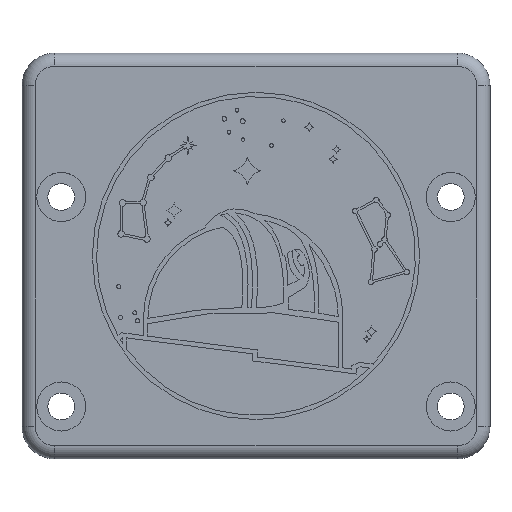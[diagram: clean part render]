
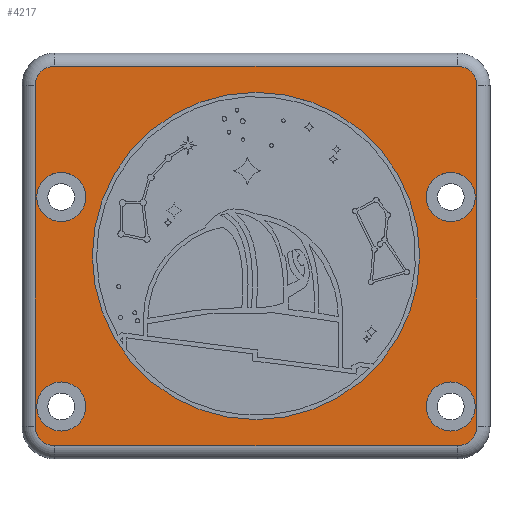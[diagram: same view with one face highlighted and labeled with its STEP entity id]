
A CAD part, top view. The second image highlights one B-rep face of the part: STEP entity #4217.
In plain terms, the highlighted planar face has unit normal (0, 0, 1).
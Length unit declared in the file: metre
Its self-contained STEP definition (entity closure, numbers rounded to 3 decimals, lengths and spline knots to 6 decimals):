
#194=LINE('',#6218,#556);
#195=LINE('',#6223,#557);
#196=LINE('',#6227,#558);
#197=LINE('',#6231,#559);
#556=VECTOR('',#4954,1.);
#557=VECTOR('',#4957,1.);
#558=VECTOR('',#4960,1.);
#559=VECTOR('',#4963,1.);
#918=ORIENTED_EDGE('',*,*,#2170,.F.);
#919=ORIENTED_EDGE('',*,*,#2171,.T.);
#920=ORIENTED_EDGE('',*,*,#2172,.T.);
#921=ORIENTED_EDGE('',*,*,#2173,.T.);
#922=ORIENTED_EDGE('',*,*,#2174,.T.);
#923=ORIENTED_EDGE('',*,*,#2175,.T.);
#924=ORIENTED_EDGE('',*,*,#2176,.T.);
#925=ORIENTED_EDGE('',*,*,#2177,.T.);
#926=ORIENTED_EDGE('',*,*,#2178,.T.);
#927=ORIENTED_EDGE('',*,*,#2179,.T.);
#928=ORIENTED_EDGE('',*,*,#2180,.T.);
#929=ORIENTED_EDGE('',*,*,#2181,.T.);
#930=ORIENTED_EDGE('',*,*,#2182,.T.);
#2170=EDGE_CURVE('',#2796,#2796,#3224,.T.);
#2171=EDGE_CURVE('',#2797,#2797,#3225,.T.);
#2172=EDGE_CURVE('',#2798,#2798,#3226,.T.);
#2173=EDGE_CURVE('',#2799,#2799,#3227,.T.);
#2174=EDGE_CURVE('',#2800,#2800,#3228,.T.);
#2175=EDGE_CURVE('',#2801,#2802,#194,.F.);
#2176=EDGE_CURVE('',#2802,#2803,#3229,.T.);
#2177=EDGE_CURVE('',#2803,#2804,#195,.T.);
#2178=EDGE_CURVE('',#2804,#2805,#3230,.T.);
#2179=EDGE_CURVE('',#2805,#2806,#196,.T.);
#2180=EDGE_CURVE('',#2806,#2807,#3231,.T.);
#2181=EDGE_CURVE('',#2807,#2808,#197,.F.);
#2182=EDGE_CURVE('',#2808,#2801,#3232,.T.);
#2796=VERTEX_POINT('',#6209);
#2797=VERTEX_POINT('',#6211);
#2798=VERTEX_POINT('',#6213);
#2799=VERTEX_POINT('',#6215);
#2800=VERTEX_POINT('',#6217);
#2801=VERTEX_POINT('',#6219);
#2802=VERTEX_POINT('',#6220);
#2803=VERTEX_POINT('',#6222);
#2804=VERTEX_POINT('',#6224);
#2805=VERTEX_POINT('',#6226);
#2806=VERTEX_POINT('',#6228);
#2807=VERTEX_POINT('',#6230);
#2808=VERTEX_POINT('',#6232);
#3224=CIRCLE('',#4490,0.025);
#3225=CIRCLE('',#4491,0.00375);
#3226=CIRCLE('',#4492,0.00375);
#3227=CIRCLE('',#4493,0.00375);
#3228=CIRCLE('',#4494,0.00375);
#3229=CIRCLE('',#4495,0.003);
#3230=CIRCLE('',#4496,0.003);
#3231=CIRCLE('',#4497,0.003);
#3232=CIRCLE('',#4498,0.003);
#3440=EDGE_LOOP('',(#918));
#3441=EDGE_LOOP('',(#919));
#3442=EDGE_LOOP('',(#920));
#3443=EDGE_LOOP('',(#921));
#3444=EDGE_LOOP('',(#922));
#3445=EDGE_LOOP('',(#923,#924,#925,#926,#927,#928,#929,#930));
#3766=FACE_BOUND('',#3440,.T.);
#3767=FACE_BOUND('',#3441,.T.);
#3768=FACE_BOUND('',#3442,.T.);
#3769=FACE_BOUND('',#3443,.T.);
#3770=FACE_BOUND('',#3444,.T.);
#3771=FACE_BOUND('',#3445,.T.);
#4092=PLANE('',#4489);
#4217=ADVANCED_FACE('',(#3766,#3767,#3768,#3769,#3770,#3771),#4092,.T.);
#4489=AXIS2_PLACEMENT_3D('',#6207,#4942,#4943);
#4490=AXIS2_PLACEMENT_3D('',#6208,#4944,#4945);
#4491=AXIS2_PLACEMENT_3D('',#6210,#4946,#4947);
#4492=AXIS2_PLACEMENT_3D('',#6212,#4948,#4949);
#4493=AXIS2_PLACEMENT_3D('',#6214,#4950,#4951);
#4494=AXIS2_PLACEMENT_3D('',#6216,#4952,#4953);
#4495=AXIS2_PLACEMENT_3D('',#6221,#4955,#4956);
#4496=AXIS2_PLACEMENT_3D('',#6225,#4958,#4959);
#4497=AXIS2_PLACEMENT_3D('',#6229,#4961,#4962);
#4498=AXIS2_PLACEMENT_3D('',#6233,#4964,#4965);
#4942=DIRECTION('',(0.,0.,1.));
#4943=DIRECTION('',(1.,0.,0.));
#4944=DIRECTION('',(0.,0.,1.));
#4945=DIRECTION('',(1.,0.,0.));
#4946=DIRECTION('',(0.,0.,-1.));
#4947=DIRECTION('',(-1.,0.,0.));
#4948=DIRECTION('',(0.,0.,-1.));
#4949=DIRECTION('',(-1.,0.,0.));
#4950=DIRECTION('',(0.,0.,-1.));
#4951=DIRECTION('',(-1.,0.,0.));
#4952=DIRECTION('',(0.,0.,-1.));
#4953=DIRECTION('',(-1.,0.,0.));
#4954=DIRECTION('',(1.,0.,0.));
#4955=DIRECTION('',(0.,0.,1.));
#4956=DIRECTION('',(1.,0.,0.));
#4957=DIRECTION('',(0.,-1.,0.));
#4958=DIRECTION('',(0.,0.,1.));
#4959=DIRECTION('',(1.,0.,0.));
#4960=DIRECTION('',(1.,0.,0.));
#4961=DIRECTION('',(0.,0.,1.));
#4962=DIRECTION('',(1.,0.,0.));
#4963=DIRECTION('',(0.,-1.,0.));
#4964=DIRECTION('',(0.,0.,1.));
#4965=DIRECTION('',(1.,0.,0.));
#6207=CARTESIAN_POINT('',(0.,0.033,0.006));
#6208=CARTESIAN_POINT('',(0.,0.033,0.006));
#6209=CARTESIAN_POINT('',(0.025,0.033,0.006));
#6210=CARTESIAN_POINT('',(0.02975,0.042,0.006));
#6211=CARTESIAN_POINT('',(0.026,0.042,0.006));
#6212=CARTESIAN_POINT('',(0.02975,0.01,0.006));
#6213=CARTESIAN_POINT('',(0.026,0.01,0.006));
#6214=CARTESIAN_POINT('',(-0.02975,0.01,0.006));
#6215=CARTESIAN_POINT('',(-0.0335,0.01,0.006));
#6216=CARTESIAN_POINT('',(-0.02975,0.042,0.006));
#6217=CARTESIAN_POINT('',(-0.0335,0.042,0.006));
#6218=CARTESIAN_POINT('',(0.,0.062,0.006));
#6219=CARTESIAN_POINT('',(0.03075,0.062,0.006));
#6220=CARTESIAN_POINT('',(-0.03075,0.062,0.006));
#6221=CARTESIAN_POINT('',(-0.03075,0.059,0.006));
#6222=CARTESIAN_POINT('',(-0.03375,0.059,0.006));
#6223=CARTESIAN_POINT('',(-0.03375,0.007,0.006));
#6224=CARTESIAN_POINT('',(-0.03375,0.007,0.006));
#6225=CARTESIAN_POINT('',(-0.03075,0.007,0.006));
#6226=CARTESIAN_POINT('',(-0.03075,0.004,0.006));
#6227=CARTESIAN_POINT('',(0.03075,0.004,0.006));
#6228=CARTESIAN_POINT('',(0.03075,0.004,0.006));
#6229=CARTESIAN_POINT('',(0.03075,0.007,0.006));
#6230=CARTESIAN_POINT('',(0.03375,0.007,0.006));
#6231=CARTESIAN_POINT('',(0.03375,0.033,0.006));
#6232=CARTESIAN_POINT('',(0.03375,0.059,0.006));
#6233=CARTESIAN_POINT('',(0.03075,0.059,0.006));
